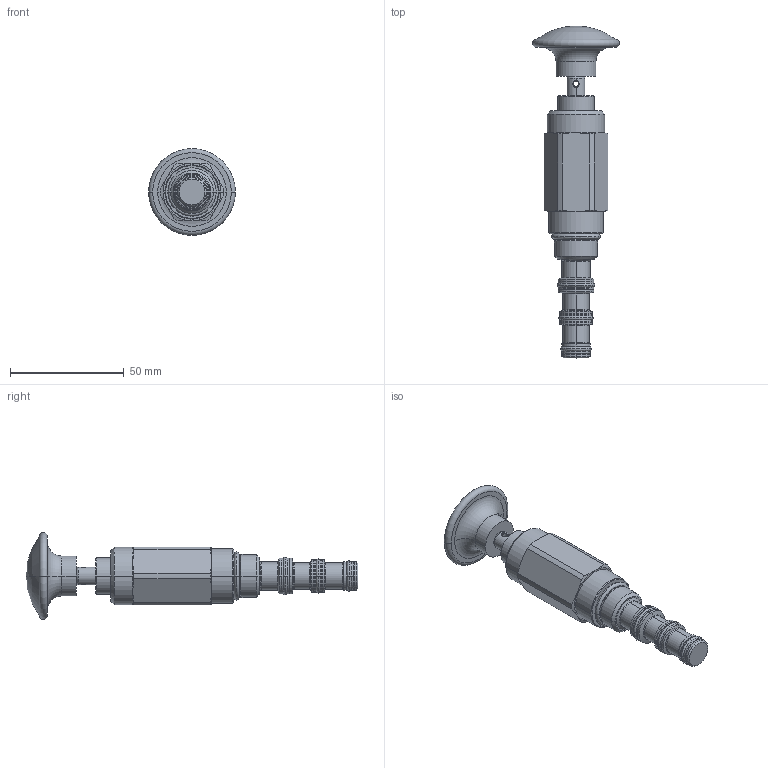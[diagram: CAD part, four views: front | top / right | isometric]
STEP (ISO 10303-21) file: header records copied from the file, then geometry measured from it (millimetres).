
FILE_DESCRIPTION((''),'2;1');
FILE_NAME('MP08-4XK','2009-02-04T',('jcs'),(''),'PRO/ENGINEER BY PARAMETRIC TECHNOLOGY CORPORATION, 2008010','PRO/ENGINEER BY PARAMETRIC TECHNOLOGY CORPORATION, 2008010','');
FILE_SCHEMA(('CONFIG_CONTROL_DESIGN'));
Length unit declared in the file: inch
Products named in the file (1): MP08-4XK
Bounding box: 38.1 x 145.72 x 38.1 mm (x, y, z)
Volume: 49008.9 mm3; surface area: 13875.1 mm2
Topology: 6 solids, 6 shells, 213 faces, 457 edges, 259 vertices
Faces by surface type: cylinder 62, cone 51, torus 42, revolution 32, plane 24, sphere 2
Entity records: 6563 total; most frequent: CARTESIAN_POINT 1813, DIRECTION 1081, ORIENTED_EDGE 910, AXIS2_PLACEMENT_3D 467, EDGE_CURVE 455, CIRCLE 286, VERTEX_POINT 259, EDGE_LOOP 230
